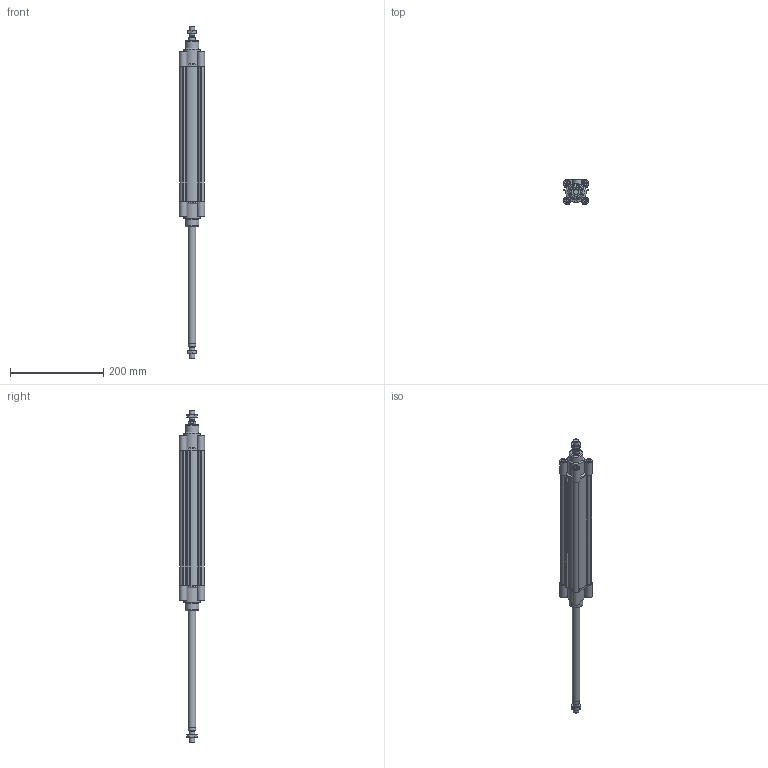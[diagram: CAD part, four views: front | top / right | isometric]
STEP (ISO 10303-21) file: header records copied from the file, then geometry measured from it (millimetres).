
FILE_DESCRIPTION((''),'2;1');
FILE_NAME('I:\Area Tecnica\Disegni\VARIE-3D\Componenti\ECOLIGHT\02\stp\139#_40_0250_02.iam.stp','2012-01-28T09:39:03',(''),(''),'Autodesk Inventor 2012','Autodesk Inventor 2012','');
FILE_SCHEMA(('AUTOMOTIVE_DESIGN { 1 0 10303 214 1 1 1 1 }'));
Length unit declared in the file: millimetre
Products named in the file (5): 139#_40_0250_02; CPL040_004-250; CPL040-001-01; CPL_40SP_0250; 1320_40_18F
Assembly tree (6 placements, depth 2):
  139#_40_0250_02
    CPL040_004-250
    CPL040-001-01  x2
    CPL_40SP_0250
    1320_40_18F  x2
Bounding box: 54 x 54 x 713 mm (x, y, z)
Volume: 509524.4 mm3; surface area: 237542.1 mm2
Topology: 6 solids, 6 shells, 351 faces, 860 edges, 564 vertices
Faces by surface type: plane 211, cylinder 98, cone 40, torus 2
Full cylindrical faces by diameter (mm): 5 x8, 5.5 x4, 8 x2, 10 x8, 10.5 x10, 10.8 x2, 11.6 x2, 12 x2, 15.5 x2, 16 x4, 30 x2, 35 x2, 40 x4
Entity records: 7104 total; most frequent: CARTESIAN_POINT 1295, DIRECTION 1162, ORIENTED_EDGE 1084, EDGE_CURVE 542, AXIS2_PLACEMENT_3D 413, VERTEX_POINT 380, VECTOR 336, LINE 336
